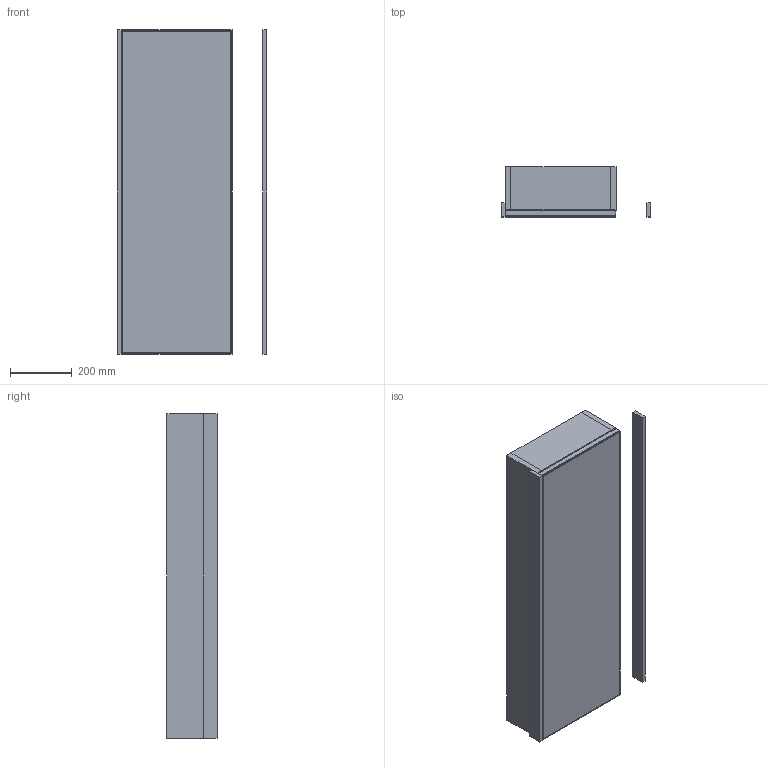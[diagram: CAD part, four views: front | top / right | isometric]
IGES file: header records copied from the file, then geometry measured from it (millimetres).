
Start section: Data from Parasolid IGES Translator 19.0.9, Copyright(c) 2006 Siemens PL M Software. All Rights Reserved.
Global section: file name: noorth-mirror-H 105 D 4,5-16 W 36_9131.igs; native system: By Siemens PLM Incorporated; preprocessor: XPlus GENERIC/IGES 19.0.9; author: Noname; organization: Noname; date: 20200519.101532; units: metre
Bounding box: 483.82 x 162 x 1050 mm (x, y, z)
Volume: 17456349.4 mm3; surface area: 3618396.7 mm2
Topology: 13 solids, 13 shells, 162 faces, 312 edges, 176 vertices
Faces by surface type: plane 162
